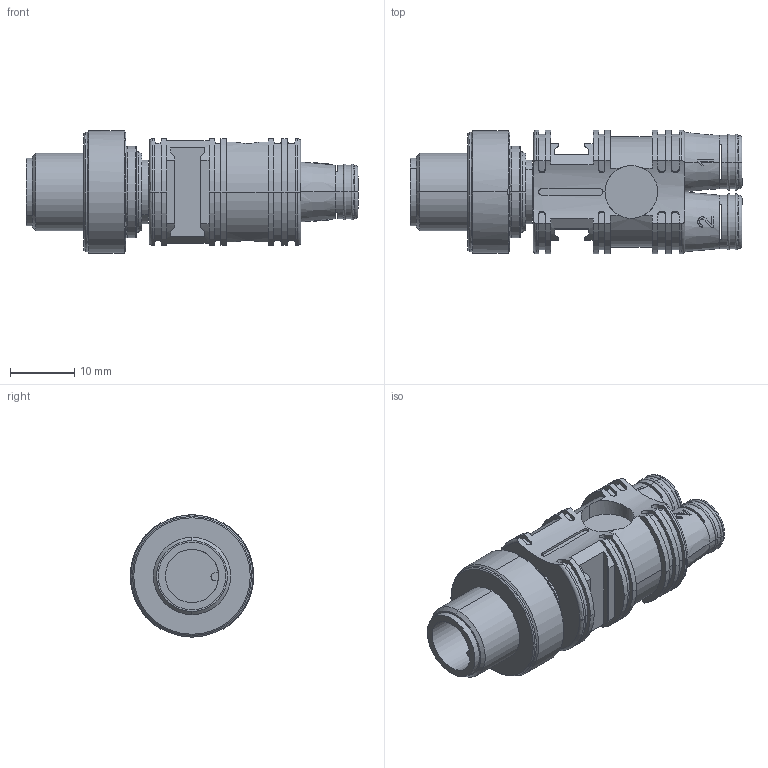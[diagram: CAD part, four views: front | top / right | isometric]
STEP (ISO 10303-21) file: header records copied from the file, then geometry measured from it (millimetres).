
FILE_DESCRIPTION (( 'STEP AP203' ), '1' );
FILE_NAME ('VBRS-cable.step', '2014-10-30T19:42:14', ( 'Turck User' ), ( '' ), 'SwSTEP 2.0', 'SolidWorks 2014', '' );
FILE_SCHEMA (( 'CONFIG_CONTROL_DESIGN' ));
Length unit declared in the file: millimetre
Products named in the file (1): VBRS-cable
Bounding box: 51.6 x 19.2 x 19 mm (x, y, z)
Volume: 8715.5 mm3; surface area: 4777.4 mm2
Topology: 1 solids, 1 shells, 296 faces, 818 edges, 530 vertices
Faces by surface type: cylinder 115, plane 84, bspline 50, torus 27, cone 20
Entity records: 26300 total; most frequent: CARTESIAN_POINT 18942, ORIENTED_EDGE 1636, DIRECTION 1429, EDGE_CURVE 818, AXIS2_PLACEMENT_3D 571, VERTEX_POINT 530, CIRCLE 324, EDGE_LOOP 308
